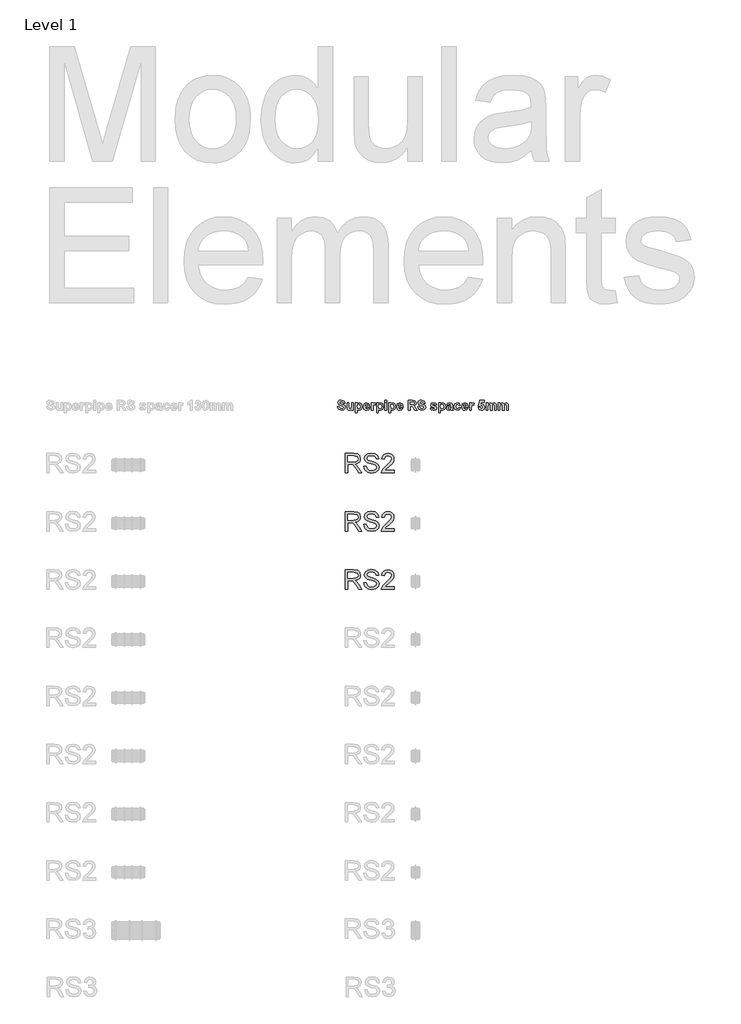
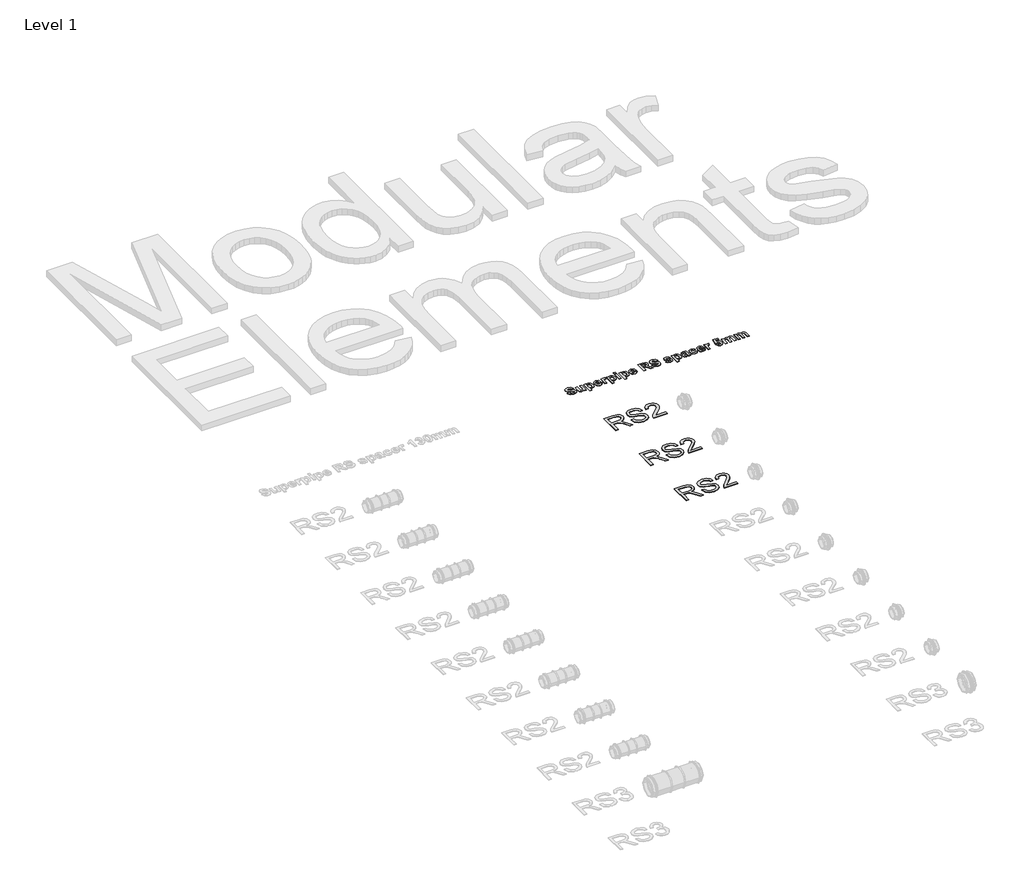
# One storey, part 52 of 58: 4 proxies.
"""IFC4 building model written with IfcOpenShell, lengths in millimetres."""

from ifc_helpers import new_model, si_unit, frame, origin, place, context, project, spatial, polyline, outline, extrude, element, save

model = new_model("IFC4")

# Units and contexts
model_context = context("Model", 3, world=origin())
ifc_project = project(units=[si_unit("LENGTHUNIT", "METRE", prefix="MILLI")], contexts=[model_context])

# Site, building, storey
site = spatial("IfcSite", under=ifc_project)
building = spatial("IfcBuilding", under=site)
storey = spatial("IfcBuildingStorey", under=building, Name="Level 1", Elevation=27.3876384)

# Proxies
placement = place(None, origin())
element("IfcBuildingElementProxy", 1, Name="100mm Arial", ObjectType="100mm Arial", at=placement, inside=storey, context=model_context, shape_type="SweptSolid", body=[
    extrude(outline(polyline([(42369.1903668, 18606.196048), (42369.1903668, 18706.6523581), (42412.4778149, 18706.6523581), (42432.5764346, 18703.9422941), (42443.5638435, 18694.3528367), (42447.6718591, 18679.1593103), (42445.9704049, 18669.2632847), (42440.8660422, 18661.0595162), (42432.2054869, 18655.0446456), (42419.8354548, 18651.7153135), (42426.9723656, 18646.3442364), (42437.1504341, 18633.4193156), (42453.9013276, 18606.196048), (42439.3086751, 18606.196048), (42426.2366016, 18627.0181689), (42416.794297, 18640.801481), (42410.1601584, 18647.3129923), (42404.1882073, 18649.7042253), (42396.9041438, 18650.1456837), (42381.7474056, 18650.1456837), (42381.7474056, 18606.196048), (42369.1903668, 18606.196048)]), holes=[polyline([(42381.7474056, 18662.7027224), (42409.85359, 18662.7027224), (42424.1887251, 18664.4808187), (42432.3311799, 18670.1707269), (42435.1148204, 18678.6933265), (42429.8050569, 18689.7543118), (42413.0173752, 18694.0953193), (42381.7474056, 18694.0953193), (42381.7474056, 18662.7027224)])]), frame((0.0, 0.0, 27.3876384), z_axis=(0.0, 0.0, 1.0), x_axis=(1.0, 0.0, 0.0)), (0.0, 0.0, 1.0), 2.0),
    extrude(outline(polyline([(42464.9377875, 18640.7279046), (42477.4948262, 18640.7279046), (42481.5415282, 18628.1586031), (42491.4252911, 18620.212352), (42506.4839274, 18617.1834569), (42519.6050519, 18619.476588), (42528.0786006, 18625.7796328), (42530.862241, 18634.2041305), (42528.7775763, 18642.040017), (42520.2427141, 18647.742188), (42501.9589789, 18652.5369166), (42482.2772922, 18658.7295969), (42471.5964516, 18668.0737996), (42468.0770471, 18680.5572619), (42472.4303174, 18694.7697697), (42485.1467717, 18704.8006854), (42503.7616007, 18708.221988), (42523.6272284, 18704.6412699), (42536.8709802, 18694.1198448), (42541.8496499, 18678.3990209), (42529.2926111, 18678.3990209), (42526.9872173, 18685.8915509), (42522.1802259, 18691.2994162), (42504.25211, 18695.6649492), (42486.2749432, 18691.3484671), (42480.6340859, 18680.9251439), (42484.6317369, 18672.2186034), (42505.1350268, 18665.20432), (42527.3550993, 18658.9012751), (42539.5074679, 18648.7232066), (42543.4192798, 18634.5229616), (42538.9188567, 18619.5011135), (42525.9694105, 18608.53823), (42506.9744368, 18604.6264181), (42484.5458978, 18608.8447983), (42470.3579155, 18621.5489899), (42464.9377875, 18640.7279046)])), frame((0.0, 0.0, 27.3876384), z_axis=(0.0, 0.0, 1.0), x_axis=(1.0, 0.0, 0.0)), (0.0, 0.0, 1.0), 2.0),
    extrude(outline(polyline([(42621.9007721, 18618.7530867), (42621.9007721, 18606.196048), (42555.9763185, 18606.196048), (42557.3252192, 18614.8535376), (42564.9526392, 18628.1831285), (42580.6734631, 18642.7389928), (42602.3539754, 18663.6592156), (42607.7741034, 18677.8839861), (42602.6605437, 18689.3986925), (42589.3064273, 18694.0953193), (42575.3882251, 18689.5090571), (42570.1029871, 18676.829391), (42557.5459484, 18678.3990209), (42560.5901719, 18690.5452581), (42567.1721939, 18699.4173455), (42576.9486579, 18704.843605), (42589.5762074, 18706.6523581), (42602.2957274, 18704.6412699), (42612.0537973, 18698.6080052), (42618.261806, 18689.5948963), (42620.3311422, 18678.6442756), (42618.0993248, 18666.7371616), (42610.6803712, 18654.4253775), (42592.6909416, 18637.2207629), (42578.245442, 18625.1419707), (42572.5800592, 18618.7530867), (42621.9007721, 18618.7530867)])), frame((0.0, 0.0, 27.3876384), z_axis=(0.0, 0.0, 1.0), x_axis=(1.0, 0.0, 0.0)), (0.0, 0.0, 1.0), 2.0),
])
element("IfcBuildingElementProxy", 2, Name="100mm Arial", ObjectType="100mm Arial", at=placement, inside=storey, context=model_context, shape_type="SweptSolid", body=[
    extrude(outline(polyline([(42369.1903668, 18306.196048), (42369.1903668, 18406.6523581), (42412.4778149, 18406.6523581), (42432.5764346, 18403.9422941), (42443.5638435, 18394.3528367), (42447.6718591, 18379.1593103), (42445.9704049, 18369.2632847), (42440.8660422, 18361.0595162), (42432.2054869, 18355.0446456), (42419.8354548, 18351.7153135), (42426.9723656, 18346.3442364), (42437.1504341, 18333.4193156), (42453.9013276, 18306.196048), (42439.3086751, 18306.196048), (42426.2366016, 18327.0181689), (42416.794297, 18340.801481), (42410.1601584, 18347.3129923), (42404.1882073, 18349.7042253), (42396.9041438, 18350.1456837), (42381.7474056, 18350.1456837), (42381.7474056, 18306.196048), (42369.1903668, 18306.196048)]), holes=[polyline([(42381.7474056, 18362.7027224), (42409.85359, 18362.7027224), (42424.1887251, 18364.4808187), (42432.3311799, 18370.1707269), (42435.1148204, 18378.6933265), (42429.8050569, 18389.7543118), (42413.0173752, 18394.0953193), (42381.7474056, 18394.0953193), (42381.7474056, 18362.7027224)])]), frame((0.0, 0.0, 27.3876384), z_axis=(0.0, 0.0, 1.0), x_axis=(1.0, 0.0, 0.0)), (0.0, 0.0, 1.0), 2.0),
    extrude(outline(polyline([(42464.9377875, 18340.7279046), (42477.4948262, 18340.7279046), (42481.5415282, 18328.1586031), (42491.4252911, 18320.212352), (42506.4839274, 18317.1834569), (42519.6050519, 18319.476588), (42528.0786006, 18325.7796328), (42530.862241, 18334.2041305), (42528.7775763, 18342.040017), (42520.2427141, 18347.742188), (42501.9589789, 18352.5369166), (42482.2772922, 18358.7295969), (42471.5964516, 18368.0737996), (42468.0770471, 18380.5572619), (42472.4303174, 18394.7697697), (42485.1467717, 18404.8006854), (42503.7616007, 18408.221988), (42523.6272284, 18404.6412699), (42536.8709802, 18394.1198448), (42541.8496499, 18378.3990209), (42529.2926111, 18378.3990209), (42526.9872173, 18385.8915509), (42522.1802259, 18391.2994162), (42504.25211, 18395.6649492), (42486.2749432, 18391.3484671), (42480.6340859, 18380.9251439), (42484.6317369, 18372.2186034), (42505.1350268, 18365.20432), (42527.3550993, 18358.9012751), (42539.5074679, 18348.7232066), (42543.4192798, 18334.5229616), (42538.9188567, 18319.5011135), (42525.9694105, 18308.53823), (42506.9744368, 18304.6264181), (42484.5458978, 18308.8447983), (42470.3579155, 18321.5489899), (42464.9377875, 18340.7279046)])), frame((0.0, 0.0, 27.3876384), z_axis=(0.0, 0.0, 1.0), x_axis=(1.0, 0.0, 0.0)), (0.0, 0.0, 1.0), 2.0),
    extrude(outline(polyline([(42621.9007721, 18318.7530867), (42621.9007721, 18306.196048), (42555.9763185, 18306.196048), (42557.3252192, 18314.8535376), (42564.9526392, 18328.1831285), (42580.6734631, 18342.7389928), (42602.3539754, 18363.6592156), (42607.7741034, 18377.8839861), (42602.6605437, 18389.3986925), (42589.3064273, 18394.0953193), (42575.3882251, 18389.5090571), (42570.1029871, 18376.829391), (42557.5459484, 18378.3990209), (42560.5901719, 18390.5452581), (42567.1721939, 18399.4173455), (42576.9486579, 18404.843605), (42589.5762074, 18406.6523581), (42602.2957274, 18404.6412699), (42612.0537973, 18398.6080052), (42618.261806, 18389.5948963), (42620.3311422, 18378.6442756), (42618.0993248, 18366.7371616), (42610.6803712, 18354.4253775), (42592.6909416, 18337.2207629), (42578.245442, 18325.1419707), (42572.5800592, 18318.7530867), (42621.9007721, 18318.7530867)])), frame((0.0, 0.0, 27.3876384), z_axis=(0.0, 0.0, 1.0), x_axis=(1.0, 0.0, 0.0)), (0.0, 0.0, 1.0), 2.0),
])
element("IfcBuildingElementProxy", 3, Name="100mm Arial", ObjectType="100mm Arial", at=placement, inside=storey, context=model_context, shape_type="SweptSolid", body=[
    extrude(outline(polyline([(42369.1903668, 18006.196048), (42369.1903668, 18106.6523581), (42412.4778149, 18106.6523581), (42432.5764346, 18103.9422941), (42443.5638435, 18094.3528367), (42447.6718591, 18079.1593103), (42445.9704049, 18069.2632847), (42440.8660422, 18061.0595162), (42432.2054869, 18055.0446456), (42419.8354548, 18051.7153135), (42426.9723656, 18046.3442364), (42437.1504341, 18033.4193156), (42453.9013276, 18006.196048), (42439.3086751, 18006.196048), (42426.2366016, 18027.0181689), (42416.794297, 18040.801481), (42410.1601584, 18047.3129923), (42404.1882073, 18049.7042253), (42396.9041438, 18050.1456837), (42381.7474056, 18050.1456837), (42381.7474056, 18006.196048), (42369.1903668, 18006.196048)]), holes=[polyline([(42381.7474056, 18062.7027224), (42409.85359, 18062.7027224), (42424.1887251, 18064.4808187), (42432.3311799, 18070.1707269), (42435.1148204, 18078.6933265), (42429.8050569, 18089.7543118), (42413.0173752, 18094.0953193), (42381.7474056, 18094.0953193), (42381.7474056, 18062.7027224)])]), frame((0.0, 0.0, 27.3876384), z_axis=(0.0, 0.0, 1.0), x_axis=(1.0, 0.0, 0.0)), (0.0, 0.0, 1.0), 2.0),
    extrude(outline(polyline([(42464.9377875, 18040.7279046), (42477.4948262, 18040.7279046), (42481.5415282, 18028.1586031), (42491.4252911, 18020.212352), (42506.4839274, 18017.1834569), (42519.6050519, 18019.476588), (42528.0786006, 18025.7796328), (42530.862241, 18034.2041305), (42528.7775763, 18042.040017), (42520.2427141, 18047.742188), (42501.9589789, 18052.5369166), (42482.2772922, 18058.7295969), (42471.5964516, 18068.0737996), (42468.0770471, 18080.5572619), (42472.4303174, 18094.7697697), (42485.1467717, 18104.8006854), (42503.7616007, 18108.221988), (42523.6272284, 18104.6412699), (42536.8709802, 18094.1198448), (42541.8496499, 18078.3990209), (42529.2926111, 18078.3990209), (42526.9872173, 18085.8915509), (42522.1802259, 18091.2994162), (42504.25211, 18095.6649492), (42486.2749432, 18091.3484671), (42480.6340859, 18080.9251439), (42484.6317369, 18072.2186034), (42505.1350268, 18065.20432), (42527.3550993, 18058.9012751), (42539.5074679, 18048.7232066), (42543.4192798, 18034.5229616), (42538.9188567, 18019.5011135), (42525.9694105, 18008.53823), (42506.9744368, 18004.6264181), (42484.5458978, 18008.8447983), (42470.3579155, 18021.5489899), (42464.9377875, 18040.7279046)])), frame((0.0, 0.0, 27.3876384), z_axis=(0.0, 0.0, 1.0), x_axis=(1.0, 0.0, 0.0)), (0.0, 0.0, 1.0), 2.0),
    extrude(outline(polyline([(42621.9007721, 18018.7530867), (42621.9007721, 18006.196048), (42555.9763185, 18006.196048), (42557.3252192, 18014.8535376), (42564.9526392, 18028.1831285), (42580.6734631, 18042.7389928), (42602.3539754, 18063.6592156), (42607.7741034, 18077.8839861), (42602.6605437, 18089.3986925), (42589.3064273, 18094.0953193), (42575.3882251, 18089.5090571), (42570.1029871, 18076.829391), (42557.5459484, 18078.3990209), (42560.5901719, 18090.5452581), (42567.1721939, 18099.4173455), (42576.9486579, 18104.843605), (42589.5762074, 18106.6523581), (42602.2957274, 18104.6412699), (42612.0537973, 18098.6080052), (42618.261806, 18089.5948963), (42620.3311422, 18078.6442756), (42618.0993248, 18066.7371616), (42610.6803712, 18054.4253775), (42592.6909416, 18037.2207629), (42578.245442, 18025.1419707), (42572.5800592, 18018.7530867), (42621.9007721, 18018.7530867)])), frame((0.0, 0.0, 27.3876384), z_axis=(0.0, 0.0, 1.0), x_axis=(1.0, 0.0, 0.0)), (0.0, 0.0, 1.0), 2.0),
])
element("IfcBuildingElementProxy", 4, Name="50mm Arial", ObjectType="50mm Arial", at=placement, inside=storey, context=model_context, shape_type="SweptSolid", body=[
    extrude(outline(polyline([(42328.9770616, 18946.5014095), (42338.6938178, 18947.3111392), (42342.4894257, 18939.9476599), (42350.1945097, 18937.594383), (42357.9502018, 18939.6756413), (42360.5565192, 18944.5403454), (42359.4747709, 18947.5831577), (42355.6854891, 18949.7656323), (42347.2592396, 18951.9291288), (42335.3916389, 18956.9013751), (42330.5965209, 18967.1368644), (42332.7979735, 18974.3991274), (42339.1492907, 18979.5485021), (42349.1570435, 18981.3197858), (42363.5740275, 18976.9042286), (42368.653816, 18965.1251922), (42358.9370598, 18965.1251922), (42356.0081157, 18970.7110618), (42349.2709117, 18972.4127593), (42342.0086487, 18970.6035196), (42340.3132771, 18967.4911211), (42341.8568243, 18964.4419828), (42351.3774741, 18961.1208258), (42362.5555393, 18957.5276504), (42368.2236471, 18952.3846017), (42370.2732754, 18944.325261), (42367.8504124, 18936.177356), (42360.9930141, 18930.5345523), (42349.9414691, 18928.6873565), (42335.1385984, 18933.2357599), (42328.9770616, 18946.5014095)])), frame((0.0, 0.0, 27.3876384), z_axis=(0.0, 0.0, 1.0), x_axis=(1.0, 0.0, 0.0)), (0.0, 0.0, 1.0), 2.0),
    extrude(outline(polyline([(42401.852733, 18929.4970861), (42401.852733, 18934.9627615), (42396.7729444, 18930.3637499), (42390.1243046, 18928.6873565), (42383.7350314, 18930.3321199), (42379.6357748, 18934.9564355), (42378.3705722, 18943.1992306), (42378.3705722, 18966.7446515), (42388.0873284, 18966.7446515), (42388.0873284, 18949.5252438), (42388.6123875, 18939.8401176), (42390.5354955, 18937.0187158), (42394.0843889, 18935.9749236), (42398.480968, 18937.3666465), (42401.1378935, 18940.8269757), (42401.852733, 18950.9422707), (42401.852733, 18966.7446515), (42411.5694892, 18966.7446515), (42411.5694892, 18929.4970861), (42401.852733, 18929.4970861)])), frame((0.0, 0.0, 27.3876384), z_axis=(0.0, 0.0, 1.0), x_axis=(1.0, 0.0, 0.0)), (0.0, 0.0, 1.0), 2.0),
    extrude(outline(polyline([(42421.2862454, 18966.7446515), (42431.0030016, 18966.7446515), (42431.0030016, 18961.3801924), (42435.6209912, 18965.8463577), (42442.0861766, 18967.5543812), (42452.5936844, 18962.4745927), (42456.9143514, 18948.3359533), (42452.4545121, 18933.8493832), (42441.6433557, 18928.6873565), (42436.1650283, 18929.889299), (42431.0030016, 18934.0138595), (42431.0030016, 18915.7316815), (42421.2862454, 18915.7316815), (42421.2862454, 18966.7446515)]), holes=[polyline([(42431.0030016, 18948.7661222), (42433.4385166, 18939.0999741), (42439.378643, 18935.9749236), (42444.9645126, 18938.8406076), (42447.1975952, 18948.2473891), (42444.9012525, 18957.3062399), (42439.2015146, 18960.2668141), (42433.3373004, 18957.363174), (42431.0030016, 18948.7661222)])]), frame((0.0, 0.0, 27.3876384), z_axis=(0.0, 0.0, 1.0), x_axis=(1.0, 0.0, 0.0)), (0.0, 0.0, 1.0), 2.0),
    extrude(outline(polyline([(42485.2548903, 18940.8333017), (42494.9716465, 18939.2138423), (42489.1770185, 18931.375912), (42479.2704819, 18928.6873565), (42471.0814579, 18930.2720228), (42465.3406009, 18935.0260216), (42461.7727295, 18947.8425243), (42466.5045873, 18962.3164423), (42478.4734042, 18967.5543812), (42491.2899068, 18962.17727), (42495.7813762, 18945.6916798), (42471.4894857, 18945.6916798), (42473.7795025, 18938.5306329), (42479.2325258, 18935.9749236), (42482.9648735, 18937.126258), (42485.2548903, 18940.8333017)]), holes=[polyline([(42486.06462, 18951.3597876), (42483.9011235, 18957.9957754), (42478.8909211, 18960.2668141), (42473.6782862, 18957.8755811), (42471.653962, 18951.3597876), (42486.06462, 18951.3597876)])]), frame((0.0, 0.0, 27.3876384), z_axis=(0.0, 0.0, 1.0), x_axis=(1.0, 0.0, 0.0)), (0.0, 0.0, 1.0), 2.0),
    extrude(outline(polyline([(42512.7856995, 18929.4970861), (42503.0689433, 18929.4970861), (42503.0689433, 18966.7446515), (42512.7856995, 18966.7446515), (42512.7856995, 18961.5573208), (42516.6698716, 18966.3967208), (42520.5919997, 18967.5543812), (42526.5511041, 18965.504753), (42523.7170502, 18956.2561217), (42519.2129289, 18957.837625), (42515.7905557, 18956.7305727), (42513.5891032, 18952.7388584), (42512.7856995, 18940.6435213), (42512.7856995, 18929.4970861)])), frame((0.0, 0.0, 27.3876384), z_axis=(0.0, 0.0, 1.0), x_axis=(1.0, 0.0, 0.0)), (0.0, 0.0, 1.0), 2.0),
    extrude(outline(polyline([(42530.5997525, 18966.7446515), (42540.3165087, 18966.7446515), (42540.3165087, 18961.3801924), (42544.9344983, 18965.8463577), (42551.3996837, 18967.5543812), (42561.9071916, 18962.4745927), (42566.2278586, 18948.3359533), (42561.7680193, 18933.8493832), (42550.9568628, 18928.6873565), (42545.4785354, 18929.889299), (42540.3165087, 18934.0138595), (42540.3165087, 18915.7316815), (42530.5997525, 18915.7316815), (42530.5997525, 18966.7446515)]), holes=[polyline([(42540.3165087, 18948.7661222), (42542.7520238, 18939.0999741), (42548.6921501, 18935.9749236), (42554.2780197, 18938.8406076), (42556.5111024, 18948.2473891), (42554.2147596, 18957.3062399), (42548.5150217, 18960.2668141), (42542.6508076, 18957.363174), (42540.3165087, 18948.7661222)])]), frame((0.0, 0.0, 27.3876384), z_axis=(0.0, 0.0, 1.0), x_axis=(1.0, 0.0, 0.0)), (0.0, 0.0, 1.0), 2.0),
    extrude(outline(polyline([(42573.5154257, 18929.4970861), (42573.5154257, 18966.7446515), (42583.2321819, 18966.7446515), (42583.2321819, 18929.4970861), (42573.5154257, 18929.4970861)])), frame((0.0, 0.0, 27.3876384), z_axis=(0.0, 0.0, 1.0), x_axis=(1.0, 0.0, 0.0)), (0.0, 0.0, 1.0), 2.0),
    extrude(outline(polyline([(42573.5154257, 18971.6030296), (42573.5154257, 18980.5100561), (42583.2321819, 18980.5100561), (42583.2321819, 18971.6030296), (42573.5154257, 18971.6030296)])), frame((0.0, 0.0, 27.3876384), z_axis=(0.0, 0.0, 1.0), x_axis=(1.0, 0.0, 0.0)), (0.0, 0.0, 1.0), 2.0),
    extrude(outline(polyline([(42592.9489381, 18966.7446515), (42602.6656943, 18966.7446515), (42602.6656943, 18961.3801924), (42607.2836839, 18965.8463577), (42613.7488693, 18967.5543812), (42624.2563771, 18962.4745927), (42628.5770441, 18948.3359533), (42624.1172048, 18933.8493832), (42613.3060484, 18928.6873565), (42607.827721, 18929.889299), (42602.6656943, 18934.0138595), (42602.6656943, 18915.7316815), (42592.9489381, 18915.7316815), (42592.9489381, 18966.7446515)]), holes=[polyline([(42602.6656943, 18948.7661222), (42605.1012093, 18939.0999741), (42611.0413357, 18935.9749236), (42616.6272053, 18938.8406076), (42618.8602879, 18948.2473891), (42616.5639451, 18957.3062399), (42610.8642073, 18960.2668141), (42604.9999931, 18957.363174), (42602.6656943, 18948.7661222)])]), frame((0.0, 0.0, 27.3876384), z_axis=(0.0, 0.0, 1.0), x_axis=(1.0, 0.0, 0.0)), (0.0, 0.0, 1.0), 2.0),
    extrude(outline(polyline([(42656.917583, 18940.8333017), (42666.6343392, 18939.2138423), (42660.8397111, 18931.375912), (42650.9331746, 18928.6873565), (42642.7441505, 18930.2720228), (42637.0032936, 18935.0260216), (42633.4354222, 18947.8425243), (42638.16728, 18962.3164423), (42650.1360969, 18967.5543812), (42662.9525995, 18962.17727), (42667.4440689, 18945.6916798), (42643.1521784, 18945.6916798), (42645.4421951, 18938.5306329), (42650.8952185, 18935.9749236), (42654.6275662, 18937.126258), (42656.917583, 18940.8333017)]), holes=[polyline([(42657.7273127, 18951.3597876), (42655.5638162, 18957.9957754), (42650.5536138, 18960.2668141), (42645.3409789, 18957.8755811), (42643.3166547, 18951.3597876), (42657.7273127, 18951.3597876)])]), frame((0.0, 0.0, 27.3876384), z_axis=(0.0, 0.0, 1.0), x_axis=(1.0, 0.0, 0.0)), (0.0, 0.0, 1.0), 2.0),
    extrude(outline(polyline([(42694.1651484, 18929.4970861), (42694.1651484, 18980.5100561), (42715.622985, 18980.5100561), (42727.3893694, 18979.1309853), (42733.2599096, 18974.2219991), (42735.4613622, 18966.1373543), (42732.2793776, 18956.6103785), (42722.7587278, 18951.8785206), (42727.8574944, 18947.6274398), (42733.2725616, 18939.3909707), (42739.5100106, 18929.4970861), (42728.161143, 18929.4970861), (42720.7723597, 18941.1496024), (42714.9714056, 18948.0639347), (42711.6565747, 18950.0186728), (42706.1086612, 18950.5500579), (42703.8819046, 18950.5500579), (42703.8819046, 18929.4970861), (42694.1651484, 18929.4970861)]), holes=[polyline([(42703.8819046, 18959.4570844), (42711.8906372, 18959.4570844), (42721.6137194, 18960.0454036), (42724.6502057, 18962.0697278), (42725.744606, 18965.6565773), (42724.302275, 18969.5597274), (42720.2283225, 18971.4385533), (42712.3334581, 18971.6030296), (42703.8819046, 18971.6030296), (42703.8819046, 18959.4570844)])]), frame((0.0, 0.0, 27.3876384), z_axis=(0.0, 0.0, 1.0), x_axis=(1.0, 0.0, 0.0)), (0.0, 0.0, 1.0), 2.0),
    extrude(outline(polyline([(42742.7489293, 18946.5014095), (42752.4656855, 18947.3111392), (42756.2612934, 18939.9476599), (42763.9663774, 18937.594383), (42771.7220695, 18939.6756413), (42774.328387, 18944.5403454), (42773.2466387, 18947.5831577), (42769.4573568, 18949.7656323), (42761.0311073, 18951.9291288), (42749.1635067, 18956.9013751), (42744.3683887, 18967.1368644), (42746.5698413, 18974.3991274), (42752.9211585, 18979.5485021), (42762.9289113, 18981.3197858), (42777.3458952, 18976.9042286), (42782.4256838, 18965.1251922), (42772.7089276, 18965.1251922), (42769.7799835, 18970.7110618), (42763.0427795, 18972.4127593), (42755.7805164, 18970.6035196), (42754.0851449, 18967.4911211), (42755.6286921, 18964.4419828), (42765.1493419, 18961.1208258), (42776.3274071, 18957.5276504), (42781.9955149, 18952.3846017), (42784.0451431, 18944.325261), (42781.6222801, 18936.177356), (42774.7648819, 18930.5345523), (42763.7133369, 18928.6873565), (42748.9104661, 18933.2357599), (42742.7489293, 18946.5014095)])), frame((0.0, 0.0, 27.3876384), z_axis=(0.0, 0.0, 1.0), x_axis=(1.0, 0.0, 0.0)), (0.0, 0.0, 1.0), 2.0),
    extrude(outline(polyline([(42807.5273039, 18940.023572), (42817.2440601, 18941.6430314), (42819.7301833, 18937.4172546), (42824.9744482, 18935.9749236), (42830.5539918, 18937.3539945), (42831.8191944, 18939.9350078), (42831.148637, 18941.7568996), (42827.9729784, 18943.0347543), (42813.4104962, 18947.7919162), (42809.1467633, 18956.1549055), (42812.8031989, 18964.2648544), (42824.1520665, 18967.5543812), (42835.0201571, 18964.8974557), (42839.9164912, 18957.0278953), (42830.199735, 18955.408436), (42828.3272352, 18959.0142635), (42824.405107, 18960.2668141), (42819.7871174, 18959.2040439), (42818.8635195, 18957.2303278), (42819.7871174, 18955.4716961), (42828.3841693, 18952.7515105), (42838.6512886, 18948.4118654), (42841.5359506, 18941.1116463), (42837.3544559, 18932.3501181), (42824.9744482, 18928.6873565), (42813.2017377, 18931.7364948), (42807.5273039, 18940.023572)])), frame((0.0, 0.0, 27.3876384), z_axis=(0.0, 0.0, 1.0), x_axis=(1.0, 0.0, 0.0)), (0.0, 0.0, 1.0), 2.0),
    extrude(outline(polyline([(42850.4429771, 18966.7446515), (42860.1597333, 18966.7446515), (42860.1597333, 18961.3801924), (42864.7777229, 18965.8463577), (42871.2429083, 18967.5543812), (42881.7504162, 18962.4745927), (42886.0710831, 18948.3359533), (42881.6112439, 18933.8493832), (42870.8000874, 18928.6873565), (42865.32176, 18929.889299), (42860.1597333, 18934.0138595), (42860.1597333, 18915.7316815), (42850.4429771, 18915.7316815), (42850.4429771, 18966.7446515)]), holes=[polyline([(42860.1597333, 18948.7661222), (42862.5952484, 18939.0999741), (42868.5353747, 18935.9749236), (42874.1212443, 18938.8406076), (42876.354327, 18948.2473891), (42874.0579842, 18957.3062399), (42868.3582463, 18960.2668141), (42862.4940322, 18957.363174), (42860.1597333, 18948.7661222)])]), frame((0.0, 0.0, 27.3876384), z_axis=(0.0, 0.0, 1.0), x_axis=(1.0, 0.0, 0.0)), (0.0, 0.0, 1.0), 2.0),
    extrude(outline(polyline([(42901.4559471, 18955.408436), (42892.5489206, 18957.0278953), (42897.4389288, 18964.9733679), (42907.7440042, 18967.5543812), (42916.9926354, 18965.991856), (42921.2690203, 18962.0317717), (42922.5089189, 18953.2196354), (42922.5089189, 18941.7315956), (42923.0213259, 18934.4946365), (42924.9381079, 18929.4970861), (42915.2213517, 18929.4970861), (42914.3104058, 18932.5841806), (42908.7688183, 18929.9715371), (42902.860322, 18928.6873565), (42894.1240979, 18931.8060809), (42890.9294612, 18939.6819673), (42892.3528142, 18945.299467), (42896.3445285, 18949.0824228), (42903.7459639, 18951.3724396), (42912.7921627, 18953.7889766), (42911.5838942, 18959.0142635), (42907.0354907, 18960.2668141), (42903.5055754, 18959.1913918), (42901.4559471, 18955.408436)]), holes=[polyline([(42912.7921627, 18946.5014095), (42907.3138353, 18945.1539687), (42902.4048491, 18943.6167475), (42900.6462174, 18940.517001), (42902.0569184, 18937.3223644), (42905.6437678, 18935.9749236), (42910.2870615, 18937.5437749), (42912.4379059, 18940.4537409), (42912.7921627, 18944.7427778), (42912.7921627, 18946.5014095)])]), frame((0.0, 0.0, 27.3876384), z_axis=(0.0, 0.0, 1.0), x_axis=(1.0, 0.0, 0.0)), (0.0, 0.0, 1.0), 2.0),
    extrude(outline(polyline([(42962.995403, 18956.2181657), (42953.2786468, 18954.5987063), (42951.2100405, 18958.8434611), (42947.0158938, 18960.2668141), (42941.5502184, 18957.5972365), (42939.5132422, 18948.677558), (42941.6324566, 18938.8469336), (42947.3195424, 18935.9749236), (42951.6908175, 18937.613361), (42954.0883765, 18943.2624907), (42963.8051327, 18941.6430314), (42958.206611, 18931.9579053), (42947.104458, 18928.6873565), (42934.4967138, 18933.8367312), (42929.796486, 18948.0829128), (42934.4650837, 18962.4239846), (42947.104458, 18967.5543812), (42957.4664675, 18964.7519574), (42962.995403, 18956.2181657)])), frame((0.0, 0.0, 27.3876384), z_axis=(0.0, 0.0, 1.0), x_axis=(1.0, 0.0, 0.0)), (0.0, 0.0, 1.0), 2.0),
    extrude(outline(polyline([(42992.1456715, 18940.8333017), (43001.8624277, 18939.2138423), (42996.0677997, 18931.375912), (42986.1612631, 18928.6873565), (42977.9722391, 18930.2720228), (42972.2313822, 18935.0260216), (42968.6635108, 18947.8425243), (42973.3953686, 18962.3164423), (42985.3641855, 18967.5543812), (42998.1806881, 18962.17727), (43002.6721574, 18945.6916798), (42978.3802669, 18945.6916798), (42980.6702837, 18938.5306329), (42986.123307, 18935.9749236), (42989.8556548, 18937.126258), (42992.1456715, 18940.8333017)]), holes=[polyline([(42992.9554012, 18951.3597876), (42990.7919047, 18957.9957754), (42985.7817023, 18960.2668141), (42980.5690675, 18957.8755811), (42978.5447433, 18951.3597876), (42992.9554012, 18951.3597876)])]), frame((0.0, 0.0, 27.3876384), z_axis=(0.0, 0.0, 1.0), x_axis=(1.0, 0.0, 0.0)), (0.0, 0.0, 1.0), 2.0),
    extrude(outline(polyline([(43019.6764808, 18929.4970861), (43009.9597246, 18929.4970861), (43009.9597246, 18966.7446515), (43019.6764808, 18966.7446515), (43019.6764808, 18961.5573208), (43023.5606528, 18966.3967208), (43027.482781, 18967.5543812), (43033.4418854, 18965.504753), (43030.6078315, 18956.2561217), (43026.1037101, 18957.837625), (43022.681337, 18956.7305727), (43020.4798844, 18952.7388584), (43019.6764808, 18940.6435213), (43019.6764808, 18929.4970861)])), frame((0.0, 0.0, 27.3876384), z_axis=(0.0, 0.0, 1.0), x_axis=(1.0, 0.0, 0.0)), (0.0, 0.0, 1.0), 2.0),
    extrude(outline(polyline([(43055.3045868, 18943.857136), (43064.2116133, 18944.8819501), (43066.6914104, 18939.555447), (43071.4485723, 18937.594383), (43076.6548811, 18939.6756413), (43078.7867476, 18945.9447203), (43076.8067055, 18951.8279125), (43071.6510048, 18953.7889766), (43064.540566, 18949.7403282), (43056.1143165, 18950.9928788), (43061.7824242, 18979.7003265), (43086.0743147, 18979.7003265), (43086.0743147, 18969.9835703), (43069.6393326, 18969.9835703), (43067.6782685, 18960.709635), (43073.9410215, 18962.6960031), (43084.265075, 18958.0969916), (43088.5035038, 18946.1598048), (43084.9735884, 18935.2411061), (43079.2200795, 18930.3257939), (43071.6003966, 18928.6873565), (43060.4602875, 18932.799265), (43055.3045868, 18943.857136)])), frame((0.0, 0.0, 27.3876384), z_axis=(0.0, 0.0, 1.0), x_axis=(1.0, 0.0, 0.0)), (0.0, 0.0, 1.0), 2.0),
    extrude(outline(polyline([(43094.9813412, 18966.7446515), (43104.6980974, 18966.7446515), (43104.6980974, 18961.7597532), (43115.566188, 18967.5543812), (43121.3797941, 18966.1310283), (43125.4221165, 18961.8230133), (43130.5904692, 18966.1310283), (43136.5179435, 18967.5543812), (43143.2867776, 18965.8906398), (43147.4366422, 18961.0006316), (43148.4235003, 18953.2955476), (43148.4235003, 18929.4970861), (43138.7067441, 18929.4970861), (43138.7067441, 18950.9422707), (43137.719886, 18958.1412737), (43133.6459336, 18960.2668141), (43129.8819557, 18958.9952854), (43127.3388985, 18955.2692637), (43126.5607988, 18947.5135716), (43126.5607988, 18929.4970861), (43116.8440427, 18929.4970861), (43116.8440427, 18950.0566289), (43116.3379616, 18957.1227855), (43114.7754364, 18959.4887145), (43111.8971004, 18960.2668141), (43107.9623202, 18959.0332415), (43105.457219, 18955.4653701), (43104.6980974, 18947.728656), (43104.6980974, 18929.4970861), (43094.9813412, 18929.4970861), (43094.9813412, 18966.7446515)])), frame((0.0, 0.0, 27.3876384), z_axis=(0.0, 0.0, 1.0), x_axis=(1.0, 0.0, 0.0)), (0.0, 0.0, 1.0), 2.0),
    extrude(outline(polyline([(43157.3305268, 18966.7446515), (43167.047283, 18966.7446515), (43167.047283, 18961.7597532), (43177.9153736, 18967.5543812), (43183.7289796, 18966.1310283), (43187.771302, 18961.8230133), (43192.9396548, 18966.1310283), (43198.8671291, 18967.5543812), (43205.6359632, 18965.8906398), (43209.7858278, 18961.0006316), (43210.7726858, 18953.2955476), (43210.7726858, 18929.4970861), (43201.0559296, 18929.4970861), (43201.0559296, 18950.9422707), (43200.0690716, 18958.1412737), (43195.9951191, 18960.2668141), (43192.2311413, 18958.9952854), (43189.688084, 18955.2692637), (43188.9099844, 18947.5135716), (43188.9099844, 18929.4970861), (43179.1932282, 18929.4970861), (43179.1932282, 18950.0566289), (43178.6871472, 18957.1227855), (43177.1246219, 18959.4887145), (43174.2462859, 18960.2668141), (43170.3115058, 18959.0332415), (43167.8064045, 18955.4653701), (43167.047283, 18947.728656), (43167.047283, 18929.4970861), (43157.3305268, 18929.4970861), (43157.3305268, 18966.7446515)])), frame((0.0, 0.0, 27.3876384), z_axis=(0.0, 0.0, 1.0), x_axis=(1.0, 0.0, 0.0)), (0.0, 0.0, 1.0), 2.0),
])

save(model, "model.ifc")
